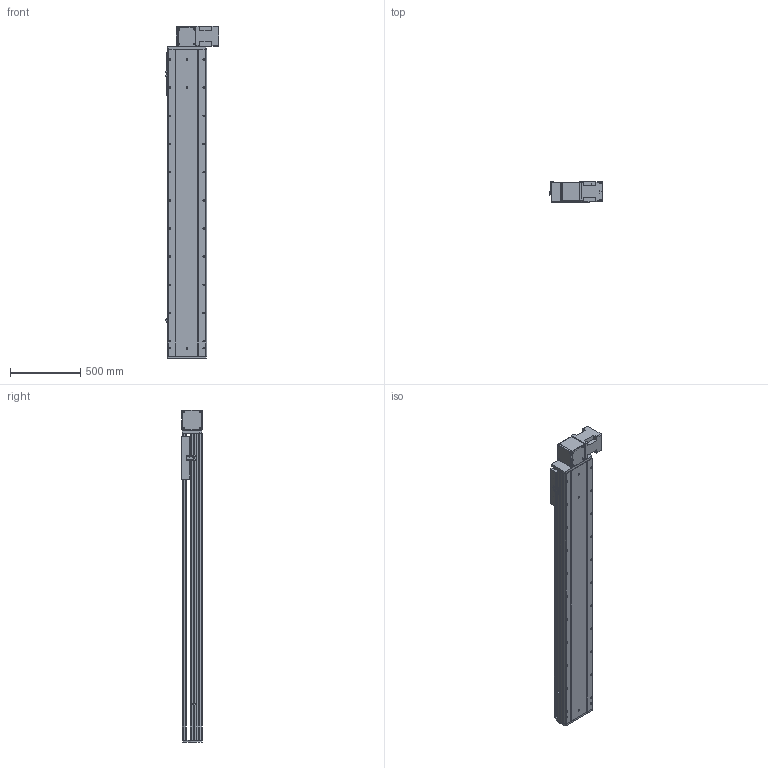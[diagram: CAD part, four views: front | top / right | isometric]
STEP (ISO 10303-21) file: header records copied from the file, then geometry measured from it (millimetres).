
FILE_DESCRIPTION (( 'STEP AP214' ), '1' );
FILE_NAME ('RTB28S-XX-1750-BL-M100-XX-C4.STEP', '2025-12-22T02:24:37', ( '' ), ( '' ), 'SwSTEP 2.0', 'SolidWorks 2018', '' );
FILE_SCHEMA (( 'AUTOMOTIVE_DESIGN' ));
Length unit declared in the file: millimetre
Products named in the file (4): RTB28S-GY-004^RTB28S-XX-XX-BL-M100-XX-C4; RTB28S-GY-011^RTB28S-XX-XX-BL-M100-XX-C4; RTB28S-GY-008^RTB28S-XX-XX-BL-M100-XX-C4; RTB28S-XX-1750-BL-M100-XX-C4
Assembly tree (3 placements, depth 2):
  RTB28S-XX-1750-BL-M100-XX-C4
    RTB28S-GY-011^RTB28S-XX-XX-BL-M100-XX-C4
    RTB28S-GY-004^RTB28S-XX-XX-BL-M100-XX-C4
    RTB28S-GY-008^RTB28S-XX-XX-BL-M100-XX-C4
Bounding box: 380.7 x 145 x 2357 mm (x, y, z)
Volume: 41418479.2 mm3; surface area: 3928768.9 mm2
Topology: 3 solids, 4 shells, 828 faces, 2208 edges, 1408 vertices
Faces by surface type: cylinder 391, plane 353, cone 80, torus 4
Entity records: 31457 total; most frequent: CARTESIAN_POINT 5602, DIRECTION 4686, ORIENTED_EDGE 4352, EDGE_CURVE 2176, AXIS2_PLACEMENT_3D 1708, VERTEX_POINT 1408, VECTOR 1270, LINE 1270
